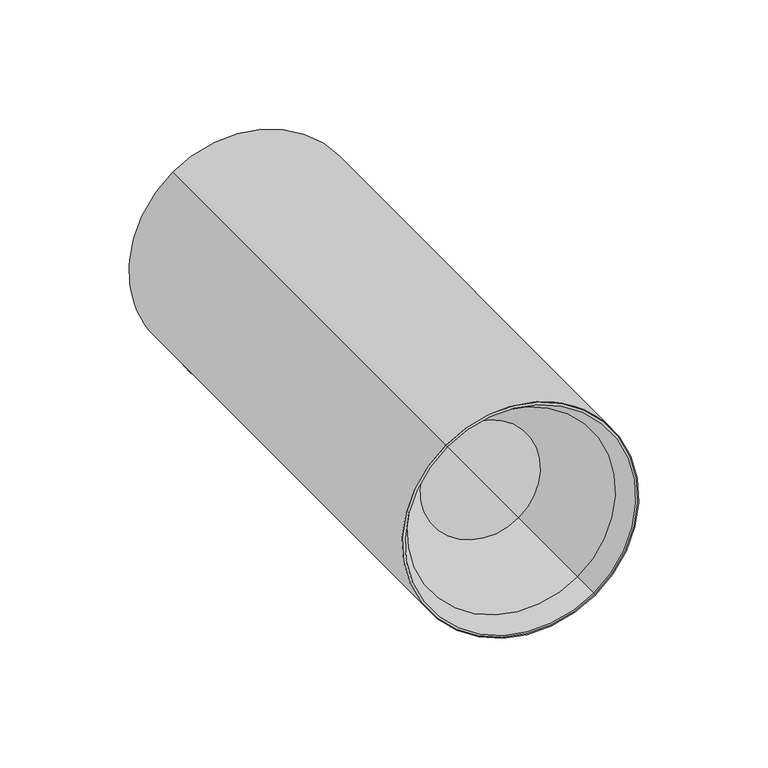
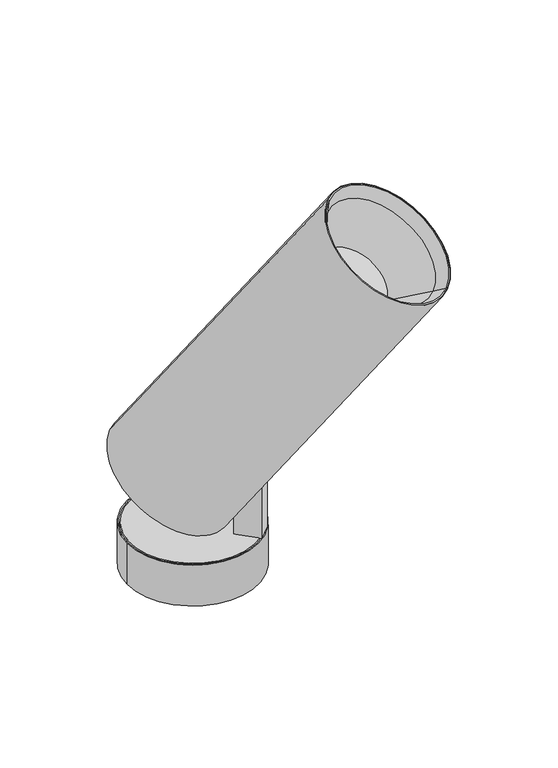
"""IFC4 building model written with IfcOpenShell, lengths in millimetres: light fixture geometry, PIPES C S : 1700 21W-830 28°."""

from ifc_helpers import new_model, si_unit, point, frame, frame_2d, origin, origin_with_axes, origin_2d, place, context, project, spatial, polyline, circle_curve, trimmed, segment, composite_curve, outline, extrude, source, transform, mapped, element, save
from ifc_brep_helpers import plane_surface, cylinder_surface, revolved_surface, advanced_brep


def light_fixture_e22ec613(model_context):
    return source(origin(), model_context, "Body", "SolidModel", [
        advanced_brep(
        [(32.6102235, -21.296515, 92.7464369), (16.387032, -5.0733235, 59.9803551), (26.4242639, -15.1105554, 50.0410565), (21.9628862, -10.6491777, 41.030384), (23.1371044, -11.8233959, 39.8676227), (43.8216735, -32.507965, 81.644377), (21.296515, -32.6102235, 92.7464369), (32.507965, -43.8216735, 81.644377), (11.8233959, -23.1371044, 39.8676227), (10.6491777, -21.9628862, 41.030384), (15.1105554, -26.4242639, 50.0410565), (5.0733235, -16.387032, 59.9803551), (10.7301778, -10.7301778, 59.9803551), (38.5379286, -38.5379286, 81.2749081), (65.3813077, -65.3813077, 309.835329), (123.3041042, -123.3041042, 252.4776854), (116.5650173, -116.5650173, 247.8194807), (64.5910063, -64.5910063, 299.2863811), (-40.0694371, 40.0694371, 96.8557975), (-38.9109812, 38.9109812, 95.7086446), (-34.4496035, 34.4496035, 104.7193171), (-6.6466612, 6.6466612, 77.1876482), (63.3755394, -63.3755394, 263.8214878), (93.4156212, -93.4156212, 234.0745072), (78.3955803, -78.3955803, 248.9479975)],
        [
            (0, 1),
            (1, 2),
            (2, 3),
            (3, 4),
            (4, 5),
            (5, 0),
            (6, 7),
            (7, 8),
            (8, 9),
            (9, 10),
            (10, 11),
            (11, 6),
            (0, 6),
            (11, 12),
            (12, 1),
            (5, 13, circle_curve(frame((9.5765303, -9.5765303, 109.9537299), z_axis=(-0.4055797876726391, 0.4055797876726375, -0.8191520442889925), x_axis=(0.5792279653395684, -0.5792279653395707, -0.5735764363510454)), 50.0)),
            (13, 7, circle_curve(frame((9.5765303, -9.5765303, 109.9537299), z_axis=(-0.4055797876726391, 0.4055797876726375, -0.8191520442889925), x_axis=(0.5792279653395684, -0.5792279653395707, -0.5735764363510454)), 50.0)),
            (14, 15, circle_curve(frame((94.3427059, -94.3427059, 281.1565072), z_axis=(0.4055797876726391, -0.4055797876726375, 0.8191520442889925), x_axis=(0.5792279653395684, -0.5792279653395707, -0.5735764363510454)), 50.0)),
            (15, 16),
            (16, 17, circle_curve(frame((90.5780118, -90.5780118, 273.5529309), z_axis=(-0.4055797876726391, 0.4055797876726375, -0.8191520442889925), x_axis=(0.5792279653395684, -0.5792279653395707, -0.5735764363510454)), 44.8649013)),
            (17, 14),
            (15, 14, circle_curve(frame((94.3427059, -94.3427059, 281.1565072), z_axis=(0.4055797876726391, -0.4055797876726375, 0.8191520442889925), x_axis=(0.5792279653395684, -0.5792279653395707, -0.5735764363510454)), 50.0)),
            (17, 16, circle_curve(frame((90.5780118, -90.5780118, 273.5529309), z_axis=(-0.4055797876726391, 0.4055797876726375, -0.8191520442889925), x_axis=(0.5792279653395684, -0.5792279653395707, -0.5735764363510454)), 44.8649013)),
            (14, 18),
            (18, 8, circle_curve(frame((-11.1080389, 11.1080389, 68.1769757), z_axis=(0.4055797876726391, -0.4055797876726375, 0.8191520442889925), x_axis=(0.5792279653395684, -0.5792279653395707, -0.5735764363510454)), 50.0)),
            (13, 15),
            (4, 18, circle_curve(frame((-11.1080389, 11.1080389, 68.1769757), z_axis=(0.4055797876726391, -0.4055797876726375, 0.8191520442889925), x_axis=(0.5792279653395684, -0.5792279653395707, -0.5735764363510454)), 50.0)),
            (18, 19),
            (19, 9, circle_curve(frame((-11.1080389, 11.1080389, 68.1769757), z_axis=(0.4055797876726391, -0.4055797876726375, 0.8191520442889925), x_axis=(0.5792279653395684, -0.5792279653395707, -0.5735764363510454)), 48.0)),
            (3, 19, circle_curve(frame((-11.1080389, 11.1080389, 68.1769757), z_axis=(0.4055797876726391, -0.4055797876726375, 0.8191520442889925), x_axis=(0.5792279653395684, -0.5792279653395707, -0.5735764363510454)), 48.0)),
            (19, 20),
            (20, 10, circle_curve(frame((-6.6466612, 6.6466612, 77.1876482), z_axis=(0.4055797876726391, -0.4055797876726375, 0.8191520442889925), x_axis=(0.5792279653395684, -0.5792279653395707, -0.5735764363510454)), 48.0)),
            (2, 20, circle_curve(frame((-6.6466612, 6.6466612, 77.1876482), z_axis=(0.4055797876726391, -0.4055797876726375, 0.8191520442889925), x_axis=(0.5792279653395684, -0.5792279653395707, -0.5735764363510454)), 48.0)),
            (20, 21),
            (21, 12),
            (22, 23, circle_curve(frame((78.3955803, -78.3955803, 248.9479975), z_axis=(0.4055797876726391, -0.4055797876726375, 0.8191520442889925), x_axis=(0.5792279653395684, -0.5792279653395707, -0.5735764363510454)), 25.931139)),
            (23, 24),
            (24, 22),
            (23, 22, circle_curve(frame((78.3955803, -78.3955803, 248.9479975), z_axis=(0.4055797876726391, -0.4055797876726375, 0.8191520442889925), x_axis=(0.5792279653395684, -0.5792279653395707, -0.5735764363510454)), 25.931139)),
            (16, 23),
            (22, 17),
        ],
        [
            plane_surface(frame((32.6102235, -21.296515, 92.7464369), z_axis=(-0.7071067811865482, -0.7071067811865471, 0.0), x_axis=(0.4055797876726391, -0.40557978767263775, 0.8191520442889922))),
            plane_surface(frame((21.296515, -32.6102235, 92.7464369), z_axis=(0.7071067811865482, 0.7071067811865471, 0.0), x_axis=(-0.4055797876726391, 0.40557978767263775, -0.8191520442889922))),
            plane_surface(frame((21.296515, -32.6102235, 92.7464369), z_axis=(0.5792279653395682, -0.5792279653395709, -0.5735764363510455), x_axis=(0.7071067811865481, 0.707106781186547, 0.0))),
            plane_surface(frame((35.7772141, -47.0909226, 78.4070259), z_axis=(-0.40557978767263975, 0.40557978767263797, -0.8191520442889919), x_axis=(0.7071067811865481, 0.707106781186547, 0.0))),
            revolved_surface(polyline([(116.5650173, -116.5650173, 247.8194807), (123.3041042, -123.3041042, 252.4776854)]), (-13.3194144, 13.3194144, 63.7106467), (-0.4055797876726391, 0.4055797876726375, -0.8191520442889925)),
            cylinder_surface(frame((-13.3194144, 13.3194144, 63.7106467), z_axis=(-0.4055797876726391, 0.4055797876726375, -0.8191520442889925), x_axis=(0.5792279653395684, -0.5792279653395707, -0.5735764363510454)), 50.0),
            plane_surface(frame((-11.1080389, 11.1080389, 68.1769757), z_axis=(-0.405579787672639, 0.40557978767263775, -0.8191520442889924), x_axis=(0.5792279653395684, -0.5792279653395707, -0.5735764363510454))),
            revolved_surface(polyline([(16.694903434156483, -16.694903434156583, 40.645306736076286), (21.156281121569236, -21.156281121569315, 49.655979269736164)]), (-13.3194144, 13.3194144, 63.7106467), (-0.4055797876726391, 0.4055797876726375, -0.8191520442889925)),
            revolved_surface(polyline([(16.69490343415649, -16.69490343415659, 40.6453067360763), (21.156281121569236, -21.156281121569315, 49.655979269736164)]), (-13.3194144, 13.3194144, 63.7106467), (-0.4055797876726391, 0.4055797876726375, -0.8191520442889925)),
            plane_surface(frame((-6.6466612, 6.6466612, 77.1876482), z_axis=(-0.405579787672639, 0.40557978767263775, -0.8191520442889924), x_axis=(0.5792279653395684, -0.5792279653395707, -0.5735764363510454))),
            plane_surface(frame((78.3955803, -78.3955803, 248.9479975), z_axis=(0.405579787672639, -0.40557978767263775, 0.8191520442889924), x_axis=(0.5792279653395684, -0.5792279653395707, -0.5735764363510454))),
            revolved_surface(polyline([(93.4156212, -93.4156212, 234.0745072), (116.5650173, -116.5650173, 247.8194807)]), (-13.3194144, 13.3194144, 63.7106467), (-0.4055797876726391, 0.4055797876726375, -0.8191520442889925)),
        ],
        [
            (0, [[1, 2, 3, 4, 5, 6]]),
            (1, [[7, 8, 9, 10, 11, 12]]),
            (2, [[13, -12, 14, 15, -1]]),
            (3, [[-13, -6, 16, 17, -7]]),
            (4, [[18, 19, 20, 21]]),
            (4, [[-19, 22, -21, 23]]),
            (5, [[-18, 24, 25, -8, -17, 26]]),
            (5, [[-22, -26, -16, -5, 27, -24]]),
            (6, [[28, 29, -9, -25]]),
            (6, [[-28, -27, -4, 30]]),
            (7, [[31, 32, -10, -29]]),
            (8, [[-31, -30, -3, 33]]),
            (9, [[34, 35, -14, -11, -32]]),
            (9, [[-34, -33, -2, -15, -35]]),
            (10, [[36, 37, 38]]),
            (10, [[-37, 39, -38]]),
            (11, [[-20, 40, -36, 41]]),
            (11, [[-23, -41, -39, -40]]),
        ],
    ),
        advanced_brep(
        [(12.7368139, -1.4231054, 52.6079867), (11.9256543, -0.6119458, 50.9696826), (20.7865153, -9.4728068, 42.1952771), (21.5976749, -10.2839664, 43.8335812), (0.6119458, -11.9256543, 50.9696826), (1.4231054, -12.7368139, 52.6079867), (10.2839664, -21.5976749, 43.8335812), (9.4728068, -20.7865153, 42.1952771), (7.0799597, -7.0799597, 52.6079867), (6.2688001, -6.2688001, 50.9696826), (-10.491315, 10.491315, 70.0078184), (-37.3265553, 37.3265553, 96.5812271), (-38.1377148, 38.1377148, 94.942923), (-11.3024746, 11.3024746, 68.3695143)],
        [
            (0, 1),
            (1, 2),
            (2, 3),
            (3, 0),
            (4, 5),
            (5, 6),
            (6, 7),
            (7, 4),
            (0, 8),
            (8, 5),
            (4, 9),
            (9, 1),
            (10, 11),
            (11, 6, circle_curve(frame((-10.491315, 10.491315, 70.0078184), z_axis=(0.40557978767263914, -0.4055797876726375, 0.8191520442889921), x_axis=(0.5792279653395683, -0.5792279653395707, -0.5735764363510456)), 46.3293243)),
            (8, 10),
            (3, 11, circle_curve(frame((-10.491315, 10.491315, 70.0078184), z_axis=(0.40557978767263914, -0.4055797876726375, 0.8191520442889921), x_axis=(0.5792279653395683, -0.5792279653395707, -0.5735764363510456)), 46.3293243)),
            (11, 12),
            (12, 7, circle_curve(frame((-11.3024746, 11.3024746, 68.3695143), z_axis=(0.40557978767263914, -0.4055797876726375, 0.8191520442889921), x_axis=(0.5792279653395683, -0.5792279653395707, -0.5735764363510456)), 46.3293243)),
            (2, 12, circle_curve(frame((-11.3024746, 11.3024746, 68.3695143), z_axis=(0.40557978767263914, -0.4055797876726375, 0.8191520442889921), x_axis=(0.5792279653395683, -0.5792279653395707, -0.5735764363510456)), 46.3293243)),
            (12, 13),
            (13, 9),
        ],
        [
            plane_surface(frame((32.6102235, -21.296515, 92.7464369), z_axis=(-0.7071067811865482, -0.7071067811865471, 0.0), x_axis=(0.4055797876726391, -0.40557978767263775, 0.8191520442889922))),
            plane_surface(frame((21.296515, -32.6102235, 92.7464369), z_axis=(0.7071067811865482, 0.7071067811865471, 0.0), x_axis=(-0.4055797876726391, 0.40557978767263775, -0.8191520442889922))),
            plane_surface(frame((21.296515, -32.6102235, 92.7464369), z_axis=(0.5792279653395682, -0.5792279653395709, -0.5735764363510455), x_axis=(0.7071067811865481, 0.707106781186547, 0.0))),
            plane_surface(frame((-10.491315, 10.491315, 70.0078184), z_axis=(0.40557978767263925, -0.40557978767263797, 0.8191520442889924), x_axis=(0.5792279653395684, -0.5792279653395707, -0.5735764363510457))),
            cylinder_surface(frame((-13.5138501, 13.5138501, 63.9031853), z_axis=(-0.40557978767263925, 0.40557978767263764, -0.8191520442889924), x_axis=(0.5792279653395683, -0.5792279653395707, -0.5735764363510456)), 46.3293243),
            plane_surface(frame((-11.3024746, 11.3024746, 68.3695143), z_axis=(-0.40557978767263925, 0.40557978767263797, -0.8191520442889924), x_axis=(0.5792279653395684, -0.5792279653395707, -0.5735764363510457))),
        ],
        [
            (0, [[1, 2, 3, 4]]),
            (1, [[5, 6, 7, 8]]),
            (2, [[-1, 9, 10, -5, 11, 12]]),
            (3, [[13, 14, -6, -10, 15]]),
            (3, [[-13, -15, -9, -4, 16]]),
            (4, [[17, 18, -7, -14]]),
            (4, [[-17, -16, -3, 19]]),
            (5, [[20, 21, -11, -8, -18]]),
            (5, [[-20, -19, -2, -12, -21]]),
        ],
    ),
        advanced_brep(
        [(65.3813077, -65.3813077, 309.835329), (123.3041042, -123.3041042, 252.4776854), (122.642148, -122.642148, 253.1331828), (66.0432638, -66.0432638, 309.1798315), (64.1007045, -64.1007045, 264.3241727), (93.5016157, -93.5016157, 235.2101263), (78.8011601, -78.8011601, 249.7671495), (65.296306, -65.296306, 299.2094326), (116.2726612, -116.2726612, 248.7304538), (64.5910063, -64.5910063, 299.2863811), (116.5650173, -116.5650173, 247.8194807), (63.3755394, -63.3755394, 263.8214878), (93.4156212, -93.4156212, 234.0745072), (78.3955803, -78.3955803, 248.9479975)],
        [
            (0, 1, circle_curve(frame((94.3427059, -94.3427059, 281.1565072), z_axis=(0.40557978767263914, -0.4055797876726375, 0.8191520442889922), x_axis=(0.5792279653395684, -0.5792279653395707, -0.5735764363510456)), 50.0)),
            (1, 2),
            (2, 3, circle_curve(frame((94.3427059, -94.3427059, 281.1565072), z_axis=(-0.40557978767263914, 0.4055797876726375, -0.8191520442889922), x_axis=(0.5792279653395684, -0.5792279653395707, -0.5735764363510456)), 48.857175)),
            (3, 0),
            (1, 0, circle_curve(frame((94.3427059, -94.3427059, 281.1565072), z_axis=(0.40557978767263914, -0.4055797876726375, 0.8191520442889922), x_axis=(0.5792279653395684, -0.5792279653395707, -0.5735764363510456)), 50.0)),
            (3, 2, circle_curve(frame((94.3427059, -94.3427059, 281.1565072), z_axis=(-0.40557978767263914, 0.4055797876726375, -0.8191520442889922), x_axis=(0.5792279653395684, -0.5792279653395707, -0.5735764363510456)), 48.857175)),
            (4, 5, circle_curve(frame((78.8011601, -78.8011601, 249.7671495), z_axis=(0.40557978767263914, -0.4055797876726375, 0.8191520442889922), x_axis=(0.5792279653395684, -0.5792279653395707, -0.5735764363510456)), 25.3793955)),
            (5, 6),
            (6, 4),
            (5, 4, circle_curve(frame((78.8011601, -78.8011601, 249.7671495), z_axis=(0.40557978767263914, -0.4055797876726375, 0.8191520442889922), x_axis=(0.5792279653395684, -0.5792279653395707, -0.5735764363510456)), 25.3793955)),
            (7, 8, circle_curve(frame((90.7844836, -90.7844836, 273.9699432), z_axis=(0.40557978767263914, -0.4055797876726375, 0.8191520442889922), x_axis=(0.5792279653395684, -0.5792279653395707, -0.5735764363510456)), 44.0037069)),
            (8, 5),
            (4, 7),
            (8, 7, circle_curve(frame((90.7844836, -90.7844836, 273.9699432), z_axis=(0.40557978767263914, -0.4055797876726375, 0.8191520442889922), x_axis=(0.5792279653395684, -0.5792279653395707, -0.5735764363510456)), 44.0037069)),
            (9, 10, circle_curve(frame((90.5780118, -90.5780118, 273.5529309), z_axis=(0.40557978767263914, -0.4055797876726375, 0.8191520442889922), x_axis=(0.5792279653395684, -0.5792279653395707, -0.5735764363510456)), 44.8649013)),
            (10, 1),
            (0, 9),
            (10, 9, circle_curve(frame((90.5780118, -90.5780118, 273.5529309), z_axis=(0.40557978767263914, -0.4055797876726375, 0.8191520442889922), x_axis=(0.5792279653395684, -0.5792279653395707, -0.5735764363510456)), 44.8649013)),
            (11, 12, circle_curve(frame((78.3955803, -78.3955803, 248.9479975), z_axis=(0.40557978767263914, -0.4055797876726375, 0.8191520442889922), x_axis=(0.5792279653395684, -0.5792279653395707, -0.5735764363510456)), 25.931139)),
            (12, 10),
            (9, 11),
            (12, 11, circle_curve(frame((78.3955803, -78.3955803, 248.9479975), z_axis=(0.40557978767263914, -0.4055797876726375, 0.8191520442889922), x_axis=(0.5792279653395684, -0.5792279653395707, -0.5735764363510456)), 25.931139)),
            (13, 12),
            (11, 13),
            (2, 8),
            (7, 3),
        ],
        [
            plane_surface(frame((94.3427059, -94.3427059, 281.1565072), z_axis=(0.40557978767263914, -0.4055797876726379, 0.8191520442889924), x_axis=(0.5792279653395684, -0.5792279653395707, -0.5735764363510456))),
            plane_surface(frame((78.8011601, -78.8011601, 249.7671495), z_axis=(0.40557978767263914, -0.4055797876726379, 0.8191520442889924), x_axis=(0.5792279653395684, -0.5792279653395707, -0.5735764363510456))),
            revolved_surface(polyline([(93.5016157, -93.5016157, 235.2101263), (116.2726612, -116.2726612, 248.7304538)]), (-13.6494933, 13.6494933, 63.0439842), (-0.40557978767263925, 0.40557978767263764, -0.8191520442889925)),
            revolved_surface(polyline([(123.3041042, -123.3041042, 252.4776854), (116.5650173, -116.5650173, 247.8194807)]), (-13.6494933, 13.6494933, 63.0439842), (-0.40557978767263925, 0.40557978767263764, -0.8191520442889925)),
            revolved_surface(polyline([(116.5650173, -116.5650173, 247.8194807), (93.4156212, -93.4156212, 234.0745072)]), (-13.6494933, 13.6494933, 63.0439842), (-0.40557978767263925, 0.40557978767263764, -0.8191520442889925)),
            plane_surface(frame((78.3955803, -78.3955803, 248.9479975), z_axis=(-0.40557978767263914, 0.4055797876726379, -0.8191520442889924), x_axis=(0.5792279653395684, -0.5792279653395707, -0.5735764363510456))),
            revolved_surface(polyline([(116.2726612, -116.2726612, 248.7304538), (122.642148, -122.642148, 253.1331828)]), (-13.6494933, 13.6494933, 63.0439842), (-0.40557978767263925, 0.40557978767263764, -0.8191520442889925)),
        ],
        [
            (0, [[1, 2, 3, 4]]),
            (0, [[5, -4, 6, -2]]),
            (1, [[7, 8, 9]]),
            (1, [[10, -9, -8]]),
            (2, [[11, 12, -7, 13]]),
            (2, [[14, -13, -10, -12]]),
            (3, [[15, 16, -1, 17]]),
            (3, [[18, -17, -5, -16]]),
            (4, [[19, 20, -15, 21]]),
            (4, [[22, -21, -18, -20]]),
            (5, [[23, -19, 24]]),
            (5, [[-24, -22, -23]]),
            (6, [[-3, 25, -11, 26]]),
            (6, [[-6, -26, -14, -25]]),
        ],
    ),
        extrude(outline(composite_curve([segment(trimmed(circle_curve(origin_2d(), 48.0), [point((-33.9411255, -33.9411255))], [point((33.9411255, 33.9411255))], False, "CARTESIAN"), True, "CONTINUOUS"), segment(trimmed(circle_curve(origin_2d(), 48.0), [point((33.9411255, 33.9411255))], [point((-33.9411255, -33.9411255))], False, "CARTESIAN"), True, "CONTINUOUS")], self_intersect=False)), origin_with_axes(), (0.0, 0.0, 1.0), 33.0),
        extrude(outline(composite_curve([segment(polyline([(0.2983896, -17.0947277), (-46.2490169, -17.0947277), (-46.2490169, 1.8978255), (7.5438399, 1.8978255), (7.5438399, -0.6021744), (9.7509831, -0.6021744), (8.4667604, -9.7398937)]), True, "CONTINUOUS"), segment(trimmed(circle_curve(frame_2d((0.0, -8.5499681)), 8.5499681), [point((8.4667604, -9.7398937))], [point((0.2983896, -17.0947277))], False, "CARTESIAN"), True, "CONTINUOUS")], self_intersect=False)), frame((28.3565195, -38.2560144, 79.2490169), z_axis=(0.7071067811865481, 0.707106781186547, 0.0), x_axis=(0.0, 0.0, 1.0)), (0.0, 0.0, 1.0), 14.0),
        extrude(outline(composite_curve([segment(trimmed(circle_curve(origin_2d(), 50.0), [point((-50.0, 0.0))], [point((50.0, 0.0))], False, "CARTESIAN"), True, "CONTINUOUS"), segment(trimmed(circle_curve(origin_2d(), 50.0), [point((50.0, 0.0))], [point((-50.0, 0.0))], False, "CARTESIAN"), True, "CONTINUOUS")], self_intersect=False), holes=[composite_curve([segment(trimmed(circle_curve(origin_2d(), 49.0), [point((-49.0, 0.0))], [point((49.0, 0.0))], True, "CARTESIAN"), True, "CONTINUOUS"), segment(trimmed(circle_curve(origin_2d(), 49.0), [point((49.0, 0.0))], [point((-49.0, 0.0))], True, "CARTESIAN"), True, "CONTINUOUS")], self_intersect=False)]), origin_with_axes(), (0.0, 0.0, 1.0), 33.0),
    ])


if __name__ == "__main__":
    model = new_model("IFC4")
    model_context = context("Model", 3, world=origin())
    ifc_project = project(units=[si_unit("LENGTHUNIT", "METRE", prefix="MILLI")], contexts=[model_context])
    site = spatial("IfcSite", under=ifc_project)
    building = spatial("IfcBuilding", under=site)
    placement = place(None, origin())
    light_fixture_shape = light_fixture_e22ec613(model_context)
    element("IfcLightFixture", 1, ObjectType="PIPES C S : 1700 21W-830 28°", at=placement, inside=building, context=model_context, shape_type="MappedRepresentation", body=[
        mapped(light_fixture_shape, transform((0.0, 0.0, 0.0), x_axis=(1.0, 0.0, 0.0), y_axis=(0.0, 1.0, 0.0), z_axis=(0.0, 0.0, 1.0))),
    ])
    save(model, "model.ifc")
